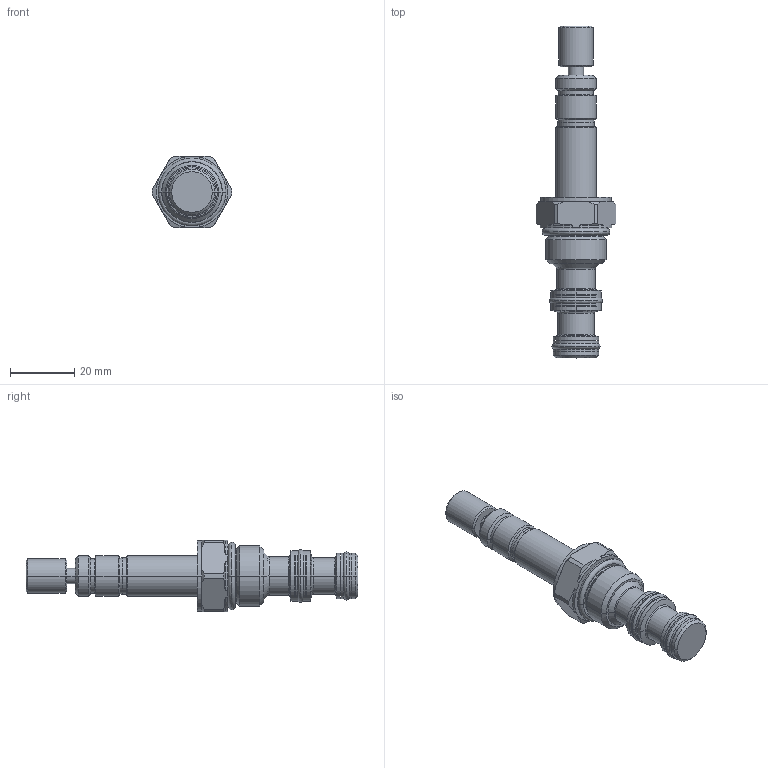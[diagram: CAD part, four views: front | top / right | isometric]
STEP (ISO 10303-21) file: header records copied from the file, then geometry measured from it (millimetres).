
FILE_DESCRIPTION((''),'2;1');
FILE_NAME('500610X_SW0002','2009-02-24T',('JCS'),(''),'PRO/ENGINEER BY PARAMETRIC TECHNOLOGY CORPORATION, 2008010','PRO/ENGINEER BY PARAMETRIC TECHNOLOGY CORPORATION, 2008010','');
FILE_SCHEMA(('CONFIG_CONTROL_DESIGN'));
Length unit declared in the file: inch
Products named in the file (1): 500610X_SW0002
Bounding box: 24.94 x 103.68 x 22.23 mm (x, y, z)
Volume: 17081.2 mm3; surface area: 7628.7 mm2
Topology: 5 solids, 5 shells, 202 faces, 439 edges, 260 vertices
Faces by surface type: cylinder 73, cone 48, plane 33, torus 24, revolution 24
Entity records: 6010 total; most frequent: CARTESIAN_POINT 1453, DIRECTION 1018, ORIENTED_EDGE 878, EDGE_CURVE 439, AXIS2_PLACEMENT_3D 429, VERTEX_POINT 260, CIRCLE 251, EDGE_LOOP 225
